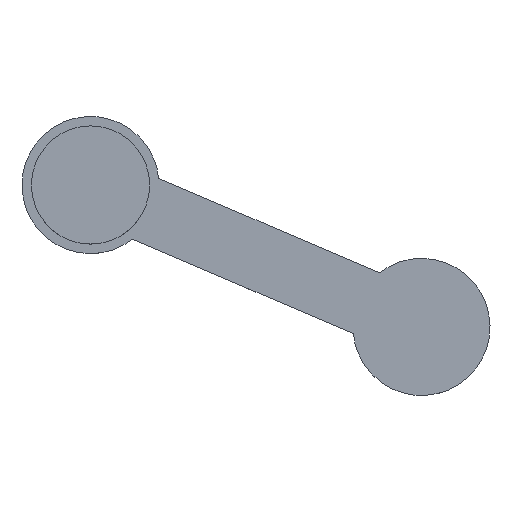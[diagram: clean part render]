
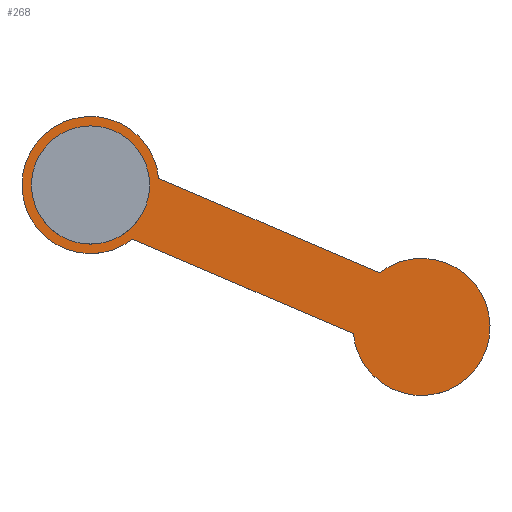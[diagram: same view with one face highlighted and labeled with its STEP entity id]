
A CAD part, top view. The second image highlights one B-rep face of the part: STEP entity #268.
In plain terms, the highlighted planar face has unit normal (0, 0, 1).
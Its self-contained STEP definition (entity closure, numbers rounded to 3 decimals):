
#32 = PLANE('',#33);
#33 = AXIS2_PLACEMENT_3D('',#34,#35,#36);
#34 = CARTESIAN_POINT('',(0.551,-11.713,10.85));
#35 = DIRECTION('',(0.394,0.919,0.));
#36 = DIRECTION('',(0.,-0.,1.));
#57 = VERTEX_POINT('',#58);
#58 = CARTESIAN_POINT('',(2.886,-12.714,11.3));
#72 = CYLINDRICAL_SURFACE('',#73,2.9);
#73 = AXIS2_PLACEMENT_3D('',#74,#75,#76);
#74 = CARTESIAN_POINT('',(0.,-13.,10.85));
#75 = DIRECTION('',(-0.,-0.,-1.));
#76 = DIRECTION('',(1.,0.,0.));
#83 = EDGE_CURVE('',#57,#84,#86,.T.);
#84 = VERTEX_POINT('',#85);
#85 = CARTESIAN_POINT('',(12.217,-16.713,11.3));
#86 = SURFACE_CURVE('',#87,(#91,#97),.PCURVE_S1.);
#87 = LINE('',#88,#89);
#88 = CARTESIAN_POINT('',(-1.802,-10.705,11.3));
#89 = VECTOR('',#90,1.);
#90 = DIRECTION('',(0.919,-0.394,0.));
#91 = PCURVE('',#32,#92);
#92 = DEFINITIONAL_REPRESENTATION('',(#93),#96);
#93 = B_SPLINE_CURVE_WITH_KNOTS('',1,(#94,#95),.UNSPECIFIED.,.F.,.F.,(2,
    2),(5.1,15.252),.PIECEWISE_BEZIER_KNOTS.);
#94 = CARTESIAN_POINT('',(0.45,2.54));
#95 = CARTESIAN_POINT('',(0.45,12.692));
#96 = ( GEOMETRIC_REPRESENTATION_CONTEXT(2) 
PARAMETRIC_REPRESENTATION_CONTEXT() REPRESENTATION_CONTEXT('2D SPACE',''
  ) );
#97 = PCURVE('',#98,#103);
#98 = PLANE('',#99);
#99 = AXIS2_PLACEMENT_3D('',#100,#101,#102);
#100 = CARTESIAN_POINT('',(0.,0.,11.3));
#101 = DIRECTION('',(0.,0.,1.));
#102 = DIRECTION('',(1.,0.,-0.));
#103 = DEFINITIONAL_REPRESENTATION('',(#104),#107);
#104 = B_SPLINE_CURVE_WITH_KNOTS('',1,(#105,#106),.UNSPECIFIED.,.F.,.F.,
  (2,2),(5.1,15.252),.PIECEWISE_BEZIER_KNOTS.);
#105 = CARTESIAN_POINT('',(2.886,-12.714));
#106 = CARTESIAN_POINT('',(12.217,-16.713));
#107 = ( GEOMETRIC_REPRESENTATION_CONTEXT(2) 
PARAMETRIC_REPRESENTATION_CONTEXT() REPRESENTATION_CONTEXT('2D SPACE',''
  ) );
#123 = CYLINDRICAL_SURFACE('',#124,2.9);
#124 = AXIS2_PLACEMENT_3D('',#125,#126,#127);
#125 = CARTESIAN_POINT('',(14.,-19.,10.85));
#126 = DIRECTION('',(-0.,-0.,-1.));
#127 = DIRECTION('',(1.,0.,0.));
#178 = PLANE('',#179);
#179 = AXIS2_PLACEMENT_3D('',#180,#181,#182);
#180 = CARTESIAN_POINT('',(-0.551,-14.287,10.85));
#181 = DIRECTION('',(0.394,0.919,0.));
#182 = DIRECTION('',(0.,-0.,1.));
#220 = EDGE_CURVE('',#84,#221,#223,.T.);
#221 = VERTEX_POINT('',#222);
#222 = CARTESIAN_POINT('',(11.114,-19.286,11.3));
#223 = SURFACE_CURVE('',#224,(#229,#236),.PCURVE_S1.);
#224 = CIRCLE('',#225,2.9);
#225 = AXIS2_PLACEMENT_3D('',#226,#227,#228);
#226 = CARTESIAN_POINT('',(14.,-19.,11.3));
#227 = DIRECTION('',(0.,0.,-1.));
#228 = DIRECTION('',(1.,0.,0.));
#229 = PCURVE('',#123,#230);
#230 = DEFINITIONAL_REPRESENTATION('',(#231),#235);
#231 = LINE('',#232,#233);
#232 = CARTESIAN_POINT('',(-6.283,-0.45));
#233 = VECTOR('',#234,1.);
#234 = DIRECTION('',(1.,0.));
#235 = ( GEOMETRIC_REPRESENTATION_CONTEXT(2) 
PARAMETRIC_REPRESENTATION_CONTEXT() REPRESENTATION_CONTEXT('2D SPACE',''
  ) );
#236 = PCURVE('',#98,#237);
#237 = DEFINITIONAL_REPRESENTATION('',(#238),#246);
#238 = ( BOUNDED_CURVE() B_SPLINE_CURVE(2,(#239,#240,#241,#242,#243,#244
,#245),.UNSPECIFIED.,.T.,.F.) B_SPLINE_CURVE_WITH_KNOTS((1,2,2,2,2,1),(
    -2.094,0.,2.094,4.189,6.283,
8.378),.UNSPECIFIED.) CURVE() GEOMETRIC_REPRESENTATION_ITEM() 
RATIONAL_B_SPLINE_CURVE((1.,0.5,1.,0.5,1.,0.5,1.)) REPRESENTATION_ITEM(
  '') );
#239 = CARTESIAN_POINT('',(16.9,-19.));
#240 = CARTESIAN_POINT('',(16.9,-24.023));
#241 = CARTESIAN_POINT('',(12.55,-21.511));
#242 = CARTESIAN_POINT('',(8.2,-19.));
#243 = CARTESIAN_POINT('',(12.55,-16.489));
#244 = CARTESIAN_POINT('',(16.9,-13.977));
#245 = CARTESIAN_POINT('',(16.9,-19.));
#246 = ( GEOMETRIC_REPRESENTATION_CONTEXT(2) 
PARAMETRIC_REPRESENTATION_CONTEXT() REPRESENTATION_CONTEXT('2D SPACE',''
  ) );
#268 = ADVANCED_FACE('',(#269,#320),#98,.T.);
#269 = FACE_BOUND('',#270,.T.);
#270 = EDGE_LOOP('',(#271,#272,#300,#319));
#271 = ORIENTED_EDGE('',*,*,#83,.F.);
#272 = ORIENTED_EDGE('',*,*,#273,.F.);
#273 = EDGE_CURVE('',#274,#57,#276,.T.);
#274 = VERTEX_POINT('',#275);
#275 = CARTESIAN_POINT('',(1.783,-15.287,11.3));
#276 = SURFACE_CURVE('',#277,(#282,#293),.PCURVE_S1.);
#277 = CIRCLE('',#278,2.9);
#278 = AXIS2_PLACEMENT_3D('',#279,#280,#281);
#279 = CARTESIAN_POINT('',(0.,-13.,11.3));
#280 = DIRECTION('',(0.,0.,-1.));
#281 = DIRECTION('',(1.,0.,0.));
#282 = PCURVE('',#98,#283);
#283 = DEFINITIONAL_REPRESENTATION('',(#284),#292);
#284 = ( BOUNDED_CURVE() B_SPLINE_CURVE(2,(#285,#286,#287,#288,#289,#290
,#291),.UNSPECIFIED.,.T.,.F.) B_SPLINE_CURVE_WITH_KNOTS((1,2,2,2,2,1),(
    -2.094,0.,2.094,4.189,6.283,
8.378),.UNSPECIFIED.) CURVE() GEOMETRIC_REPRESENTATION_ITEM() 
RATIONAL_B_SPLINE_CURVE((1.,0.5,1.,0.5,1.,0.5,1.)) REPRESENTATION_ITEM(
  '') );
#285 = CARTESIAN_POINT('',(2.9,-13.));
#286 = CARTESIAN_POINT('',(2.9,-18.023));
#287 = CARTESIAN_POINT('',(-1.45,-15.511));
#288 = CARTESIAN_POINT('',(-5.8,-13.));
#289 = CARTESIAN_POINT('',(-1.45,-10.489));
#290 = CARTESIAN_POINT('',(2.9,-7.977));
#291 = CARTESIAN_POINT('',(2.9,-13.));
#292 = ( GEOMETRIC_REPRESENTATION_CONTEXT(2) 
PARAMETRIC_REPRESENTATION_CONTEXT() REPRESENTATION_CONTEXT('2D SPACE',''
  ) );
#293 = PCURVE('',#72,#294);
#294 = DEFINITIONAL_REPRESENTATION('',(#295),#299);
#295 = LINE('',#296,#297);
#296 = CARTESIAN_POINT('',(0.,-0.45));
#297 = VECTOR('',#298,1.);
#298 = DIRECTION('',(1.,0.));
#299 = ( GEOMETRIC_REPRESENTATION_CONTEXT(2) 
PARAMETRIC_REPRESENTATION_CONTEXT() REPRESENTATION_CONTEXT('2D SPACE',''
  ) );
#300 = ORIENTED_EDGE('',*,*,#301,.T.);
#301 = EDGE_CURVE('',#274,#221,#302,.T.);
#302 = SURFACE_CURVE('',#303,(#307,#313),.PCURVE_S1.);
#303 = LINE('',#304,#305);
#304 = CARTESIAN_POINT('',(-2.905,-13.278,11.3));
#305 = VECTOR('',#306,1.);
#306 = DIRECTION('',(0.919,-0.394,0.));
#307 = PCURVE('',#98,#308);
#308 = DEFINITIONAL_REPRESENTATION('',(#309),#312);
#309 = B_SPLINE_CURVE_WITH_KNOTS('',1,(#310,#311),.UNSPECIFIED.,.F.,.F.,
  (2,2),(5.1,15.252),.PIECEWISE_BEZIER_KNOTS.);
#310 = CARTESIAN_POINT('',(1.783,-15.287));
#311 = CARTESIAN_POINT('',(11.114,-19.286));
#312 = ( GEOMETRIC_REPRESENTATION_CONTEXT(2) 
PARAMETRIC_REPRESENTATION_CONTEXT() REPRESENTATION_CONTEXT('2D SPACE',''
  ) );
#313 = PCURVE('',#178,#314);
#314 = DEFINITIONAL_REPRESENTATION('',(#315),#318);
#315 = B_SPLINE_CURVE_WITH_KNOTS('',1,(#316,#317),.UNSPECIFIED.,.F.,.F.,
  (2,2),(5.1,15.252),.PIECEWISE_BEZIER_KNOTS.);
#316 = CARTESIAN_POINT('',(0.45,2.54));
#317 = CARTESIAN_POINT('',(0.45,12.692));
#318 = ( GEOMETRIC_REPRESENTATION_CONTEXT(2) 
PARAMETRIC_REPRESENTATION_CONTEXT() REPRESENTATION_CONTEXT('2D SPACE',''
  ) );
#319 = ORIENTED_EDGE('',*,*,#220,.F.);
#320 = FACE_BOUND('',#321,.T.);
#321 = EDGE_LOOP('',(#322));
#322 = ORIENTED_EDGE('',*,*,#323,.T.);
#323 = EDGE_CURVE('',#324,#324,#326,.T.);
#324 = VERTEX_POINT('',#325);
#325 = CARTESIAN_POINT('',(2.5,-13.,11.3));
#326 = SURFACE_CURVE('',#327,(#332,#343),.PCURVE_S1.);
#327 = CIRCLE('',#328,2.5);
#328 = AXIS2_PLACEMENT_3D('',#329,#330,#331);
#329 = CARTESIAN_POINT('',(0.,-13.,11.3));
#330 = DIRECTION('',(0.,0.,-1.));
#331 = DIRECTION('',(1.,0.,0.));
#332 = PCURVE('',#98,#333);
#333 = DEFINITIONAL_REPRESENTATION('',(#334),#342);
#334 = ( BOUNDED_CURVE() B_SPLINE_CURVE(2,(#335,#336,#337,#338,#339,#340
,#341),.UNSPECIFIED.,.T.,.F.) B_SPLINE_CURVE_WITH_KNOTS((1,2,2,2,2,1),(
    -2.094,0.,2.094,4.189,6.283,
8.378),.UNSPECIFIED.) CURVE() GEOMETRIC_REPRESENTATION_ITEM() 
RATIONAL_B_SPLINE_CURVE((1.,0.5,1.,0.5,1.,0.5,1.)) REPRESENTATION_ITEM(
  '') );
#335 = CARTESIAN_POINT('',(2.5,-13.));
#336 = CARTESIAN_POINT('',(2.5,-17.33));
#337 = CARTESIAN_POINT('',(-1.25,-15.165));
#338 = CARTESIAN_POINT('',(-5.,-13.));
#339 = CARTESIAN_POINT('',(-1.25,-10.835));
#340 = CARTESIAN_POINT('',(2.5,-8.67));
#341 = CARTESIAN_POINT('',(2.5,-13.));
#342 = ( GEOMETRIC_REPRESENTATION_CONTEXT(2) 
PARAMETRIC_REPRESENTATION_CONTEXT() REPRESENTATION_CONTEXT('2D SPACE',''
  ) );
#343 = PCURVE('',#344,#349);
#344 = CYLINDRICAL_SURFACE('',#345,2.5);
#345 = AXIS2_PLACEMENT_3D('',#346,#347,#348);
#346 = CARTESIAN_POINT('',(0.,-13.,11.05));
#347 = DIRECTION('',(-0.,-0.,-1.));
#348 = DIRECTION('',(1.,0.,0.));
#349 = DEFINITIONAL_REPRESENTATION('',(#350),#354);
#350 = LINE('',#351,#352);
#351 = CARTESIAN_POINT('',(-6.283,-0.25));
#352 = VECTOR('',#353,1.);
#353 = DIRECTION('',(1.,-0.));
#354 = ( GEOMETRIC_REPRESENTATION_CONTEXT(2) 
PARAMETRIC_REPRESENTATION_CONTEXT() REPRESENTATION_CONTEXT('2D SPACE',''
  ) );
